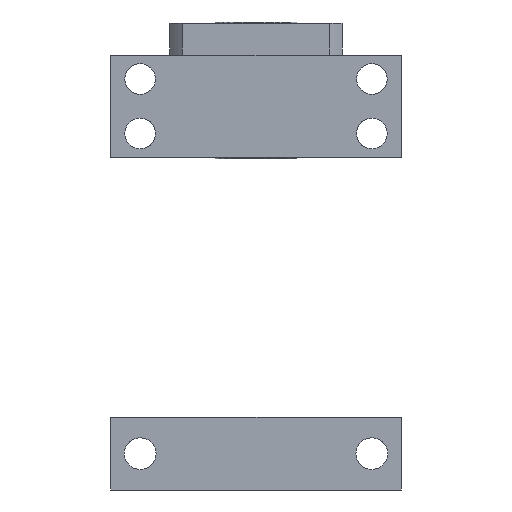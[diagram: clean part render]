
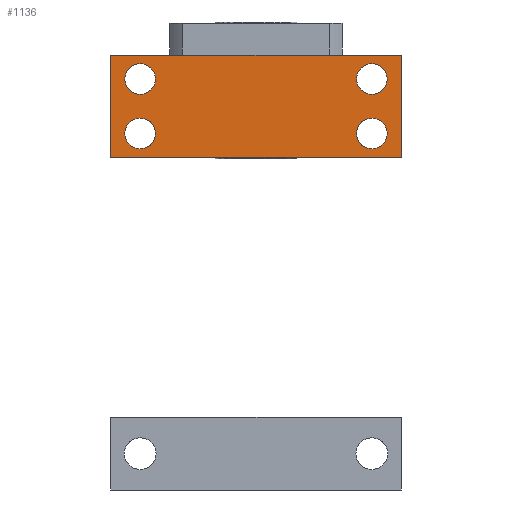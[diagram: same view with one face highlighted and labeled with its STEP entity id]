
A CAD part, front view. The second image highlights one B-rep face of the part: STEP entity #1136.
In plain terms, the highlighted planar face has unit normal (0, -1, 0).
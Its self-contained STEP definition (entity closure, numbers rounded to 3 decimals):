
#9 = EDGE_CURVE ( 'NONE', #2822, #7667, #6486, .T. ) ;
#28 = AXIS2_PLACEMENT_3D ( 'NONE', #11625, #9663, #1876 ) ;
#214 = DIRECTION ( 'NONE',  ( 0., 1., 0. ) ) ;
#454 = EDGE_LOOP ( 'NONE', ( #6903, #1167 ) ) ;
#695 = DIRECTION ( 'NONE',  ( 0., 0., 1. ) ) ;
#890 = DIRECTION ( 'NONE',  ( 0., 0., 1. ) ) ;
#1060 = VERTEX_POINT ( 'NONE', #11911 ) ;
#1106 = CARTESIAN_POINT ( 'NONE',  ( 51., 0., -12. ) ) ;
#1136 = ADVANCED_FACE ( 'NONE', ( #10887, #4983, #6206, #7166, #1327 ), #11967, .F. ) ;
#1167 = ORIENTED_EDGE ( 'NONE', *, *, #8487, .T. ) ;
#1327 = FACE_OUTER_BOUND ( 'NONE', #5179, .T. ) ;
#1370 = LINE ( 'NONE', #9109, #6528 ) ;
#1392 = CARTESIAN_POINT ( 'NONE',  ( -51., 0., -5.25 ) ) ;
#1472 = CARTESIAN_POINT ( 'NONE',  ( -64., 0., 22.5 ) ) ;
#1519 = EDGE_CURVE ( 'NONE', #3028, #12147, #1370, .T. ) ;
#1563 = DIRECTION ( 'NONE',  ( 1., 0., 0. ) ) ;
#1599 = CARTESIAN_POINT ( 'NONE',  ( 51., 0., 18.75 ) ) ;
#1797 = CARTESIAN_POINT ( 'NONE',  ( 51., 0., -5.25 ) ) ;
#1876 = DIRECTION ( 'NONE',  ( 0., 0., 1. ) ) ;
#1905 = DIRECTION ( 'NONE',  ( 0., 1., 0. ) ) ;
#1957 = EDGE_CURVE ( 'NONE', #7064, #10018, #6948, .T. ) ;
#2039 = CARTESIAN_POINT ( 'NONE',  ( -64., 0., 22.5 ) ) ;
#2041 = ORIENTED_EDGE ( 'NONE', *, *, #4988, .F. ) ;
#2075 = DIRECTION ( 'NONE',  ( 0., 0., -1. ) ) ;
#2436 = AXIS2_PLACEMENT_3D ( 'NONE', #2727, #1905, #3694 ) ;
#2557 = EDGE_CURVE ( 'NONE', #10018, #7064, #5701, .T. ) ;
#2598 = CARTESIAN_POINT ( 'NONE',  ( 51., 0., 12. ) ) ;
#2727 = CARTESIAN_POINT ( 'NONE',  ( 51., 0., 12. ) ) ;
#2754 = CARTESIAN_POINT ( 'NONE',  ( -51., 0., 18.75 ) ) ;
#2822 = VERTEX_POINT ( 'NONE', #11817 ) ;
#2828 = AXIS2_PLACEMENT_3D ( 'NONE', #4207, #3239, #9127 ) ;
#3028 = VERTEX_POINT ( 'NONE', #2039 ) ;
#3104 = EDGE_CURVE ( 'NONE', #4293, #4838, #6321, .T. ) ;
#3239 = DIRECTION ( 'NONE',  ( 0., 1., 0. ) ) ;
#3694 = DIRECTION ( 'NONE',  ( 0., 0., 1. ) ) ;
#3714 = ORIENTED_EDGE ( 'NONE', *, *, #1957, .T. ) ;
#3722 = EDGE_CURVE ( 'NONE', #12147, #5633, #5611, .T. ) ;
#3818 = ORIENTED_EDGE ( 'NONE', *, *, #8728, .T. ) ;
#3844 = AXIS2_PLACEMENT_3D ( 'NONE', #8475, #9180, #4390 ) ;
#3876 = EDGE_CURVE ( 'NONE', #1060, #5633, #8097, .T. ) ;
#3905 = CIRCLE ( 'NONE', #28, 6.75 ) ;
#3964 = ORIENTED_EDGE ( 'NONE', *, *, #7961, .T. ) ;
#4207 = CARTESIAN_POINT ( 'NONE',  ( -64., 0., 22.5 ) ) ;
#4293 = VERTEX_POINT ( 'NONE', #2754 ) ;
#4356 = CARTESIAN_POINT ( 'NONE',  ( -51., 0., -12. ) ) ;
#4390 = DIRECTION ( 'NONE',  ( 0., 0., 1. ) ) ;
#4408 = DIRECTION ( 'NONE',  ( 0., 0., 1. ) ) ;
#4462 = DIRECTION ( 'NONE',  ( 0., 1., 0. ) ) ;
#4490 = AXIS2_PLACEMENT_3D ( 'NONE', #1106, #214, #10035 ) ;
#4794 = CARTESIAN_POINT ( 'NONE',  ( -51., 0., 12. ) ) ;
#4817 = CARTESIAN_POINT ( 'NONE',  ( 51., 0., -18.75 ) ) ;
#4838 = VERTEX_POINT ( 'NONE', #8772 ) ;
#4983 = FACE_BOUND ( 'NONE', #454, .T. ) ;
#4988 = EDGE_CURVE ( 'NONE', #3028, #1060, #8078, .T. ) ;
#5103 = CARTESIAN_POINT ( 'NONE',  ( -51., 0., 12. ) ) ;
#5179 = EDGE_LOOP ( 'NONE', ( #10674, #6224, #2041, #8783 ) ) ;
#5397 = ORIENTED_EDGE ( 'NONE', *, *, #3104, .T. ) ;
#5611 = LINE ( 'NONE', #7409, #6058 ) ;
#5633 = VERTEX_POINT ( 'NONE', #8573 ) ;
#5701 = CIRCLE ( 'NONE', #3844, 6.75 ) ;
#5767 = DIRECTION ( 'NONE',  ( 0., 1., 0. ) ) ;
#6003 = DIRECTION ( 'NONE',  ( 0., 1., 0. ) ) ;
#6058 = VECTOR ( 'NONE', #1563, 1000. ) ;
#6206 = FACE_BOUND ( 'NONE', #6747, .T. ) ;
#6224 = ORIENTED_EDGE ( 'NONE', *, *, #3876, .F. ) ;
#6288 = ORIENTED_EDGE ( 'NONE', *, *, #9, .T. ) ;
#6321 = CIRCLE ( 'NONE', #11782, 6.75 ) ;
#6413 = EDGE_CURVE ( 'NONE', #11404, #12265, #10575, .T. ) ;
#6486 = CIRCLE ( 'NONE', #10330, 6.75 ) ;
#6528 = VECTOR ( 'NONE', #9169, 1000. ) ;
#6554 = AXIS2_PLACEMENT_3D ( 'NONE', #5103, #6003, #9866 ) ;
#6747 = EDGE_LOOP ( 'NONE', ( #5397, #3964 ) ) ;
#6849 = CARTESIAN_POINT ( 'NONE',  ( -64., 0., -22.5 ) ) ;
#6903 = ORIENTED_EDGE ( 'NONE', *, *, #6413, .T. ) ;
#6948 = CIRCLE ( 'NONE', #4490, 6.75 ) ;
#6986 = AXIS2_PLACEMENT_3D ( 'NONE', #2598, #12355, #695 ) ;
#7064 = VERTEX_POINT ( 'NONE', #1797 ) ;
#7101 = VECTOR ( 'NONE', #11932, 1000. ) ;
#7166 = FACE_BOUND ( 'NONE', #7724, .T. ) ;
#7348 = CARTESIAN_POINT ( 'NONE',  ( 51., 0., 5.25 ) ) ;
#7409 = CARTESIAN_POINT ( 'NONE',  ( -64., 0., -22.5 ) ) ;
#7667 = VERTEX_POINT ( 'NONE', #1392 ) ;
#7724 = EDGE_LOOP ( 'NONE', ( #3818, #6288 ) ) ;
#7961 = EDGE_CURVE ( 'NONE', #4838, #4293, #8395, .T. ) ;
#8031 = CARTESIAN_POINT ( 'NONE',  ( 64., 0., 22.5 ) ) ;
#8078 = LINE ( 'NONE', #1472, #7101 ) ;
#8097 = LINE ( 'NONE', #8031, #11118 ) ;
#8395 = CIRCLE ( 'NONE', #6554, 6.75 ) ;
#8475 = CARTESIAN_POINT ( 'NONE',  ( 51., 0., -12. ) ) ;
#8487 = EDGE_CURVE ( 'NONE', #12265, #11404, #12451, .T. ) ;
#8573 = CARTESIAN_POINT ( 'NONE',  ( 64., 0., -22.5 ) ) ;
#8728 = EDGE_CURVE ( 'NONE', #7667, #2822, #3905, .T. ) ;
#8772 = CARTESIAN_POINT ( 'NONE',  ( -51., 0., 5.25 ) ) ;
#8783 = ORIENTED_EDGE ( 'NONE', *, *, #1519, .T. ) ;
#9109 = CARTESIAN_POINT ( 'NONE',  ( -64., 0., 22.5 ) ) ;
#9127 = DIRECTION ( 'NONE',  ( -1., 0., 0. ) ) ;
#9169 = DIRECTION ( 'NONE',  ( 0., 0., -1. ) ) ;
#9180 = DIRECTION ( 'NONE',  ( 0., 1., 0. ) ) ;
#9485 = ORIENTED_EDGE ( 'NONE', *, *, #2557, .T. ) ;
#9663 = DIRECTION ( 'NONE',  ( 0., 1., 0. ) ) ;
#9866 = DIRECTION ( 'NONE',  ( 0., 0., 1. ) ) ;
#10018 = VERTEX_POINT ( 'NONE', #4817 ) ;
#10035 = DIRECTION ( 'NONE',  ( 0., 0., 1. ) ) ;
#10330 = AXIS2_PLACEMENT_3D ( 'NONE', #4356, #4462, #4408 ) ;
#10575 = CIRCLE ( 'NONE', #2436, 6.75 ) ;
#10674 = ORIENTED_EDGE ( 'NONE', *, *, #3722, .T. ) ;
#10887 = FACE_BOUND ( 'NONE', #11491, .T. ) ;
#11118 = VECTOR ( 'NONE', #2075, 1000. ) ;
#11404 = VERTEX_POINT ( 'NONE', #1599 ) ;
#11491 = EDGE_LOOP ( 'NONE', ( #3714, #9485 ) ) ;
#11625 = CARTESIAN_POINT ( 'NONE',  ( -51., 0., -12. ) ) ;
#11782 = AXIS2_PLACEMENT_3D ( 'NONE', #4794, #5767, #890 ) ;
#11817 = CARTESIAN_POINT ( 'NONE',  ( -51., 0., -18.75 ) ) ;
#11911 = CARTESIAN_POINT ( 'NONE',  ( 64., 0., 22.5 ) ) ;
#11932 = DIRECTION ( 'NONE',  ( 1., 0., 0. ) ) ;
#11967 = PLANE ( 'NONE',  #2828 ) ;
#12147 = VERTEX_POINT ( 'NONE', #6849 ) ;
#12265 = VERTEX_POINT ( 'NONE', #7348 ) ;
#12355 = DIRECTION ( 'NONE',  ( 0., 1., 0. ) ) ;
#12451 = CIRCLE ( 'NONE', #6986, 6.75 ) ;
